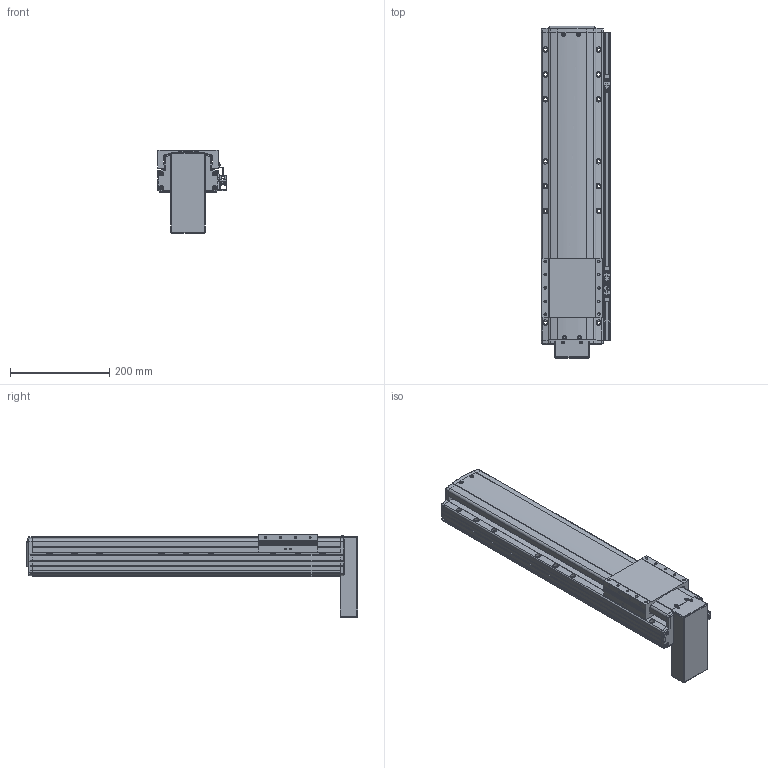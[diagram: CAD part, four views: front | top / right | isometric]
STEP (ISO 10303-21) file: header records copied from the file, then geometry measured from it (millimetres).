
FILE_DESCRIPTION(('STEP AP214'),'1');
FILE_NAME('Z:/Web/3D/PSA125/STP/PSA125-400 (3D)/PSA125ㅁㅁ-400PB+3SR.stp','2014-06-23T00:02:30',(' '),(' '),'Spatial InterOp 3D',' ',' ');
FILE_SCHEMA(('automotive_design'));
Length unit declared in the file: millimetre
Products named in the file (47): 스크루 : Round - M4.0 x 10.0; RRCV-PA120; SLIDE; BASE; FRCV-PA120-1(기준 뿔 제거); RR1500; 스크루 : Round - M4.0 x 6.0; 너트 : Square - M10.0 x 220.7419; 1; 2; 파트105; 스크루 : Round - M3.0 x 6.0; EE-SX674; SBK-SX674-352; M3.0 x 6.0; SRL-16x17-380L; SGD-PA95; 스크루 : Round - M3.0 x 8.0
Bounding box: 141 x 668.6 x 169.06 mm (x, y, z)
Volume: 5854792.6 mm3; surface area: 595114.5 mm2
Topology: 47 solids, 47 shells, 2595 faces, 6867 edges, 4404 vertices
Faces by surface type: plane 1489, cylinder 704, cone 266, sphere 72, torus 33, bspline 31
Entity records: 103350 total; most frequent: CARTESIAN_POINT 16620, DIRECTION 13836, ORIENTED_EDGE 13474, EDGE_CURVE 6737, AXIS2_PLACEMENT_3D 4660, LINE 4516, VECTOR 4516, VERTEX_POINT 4404
